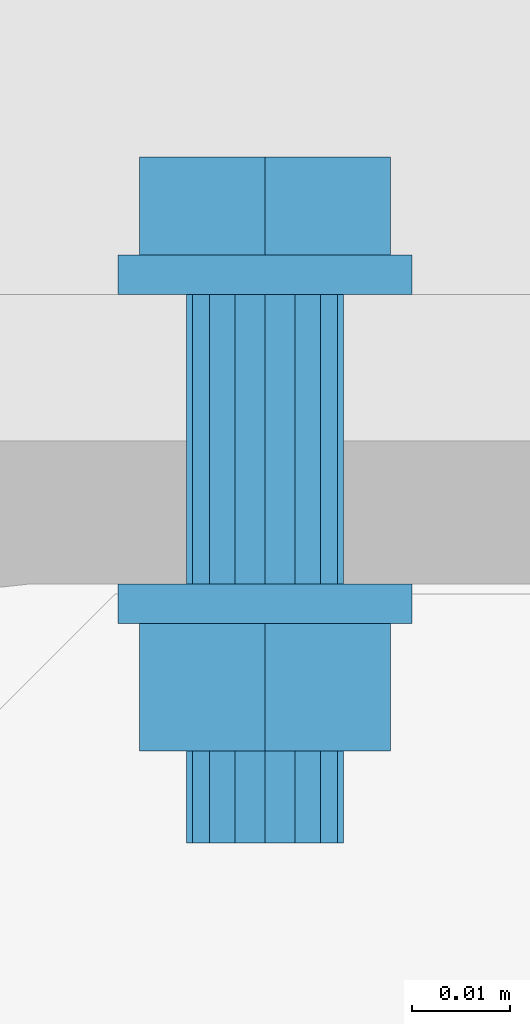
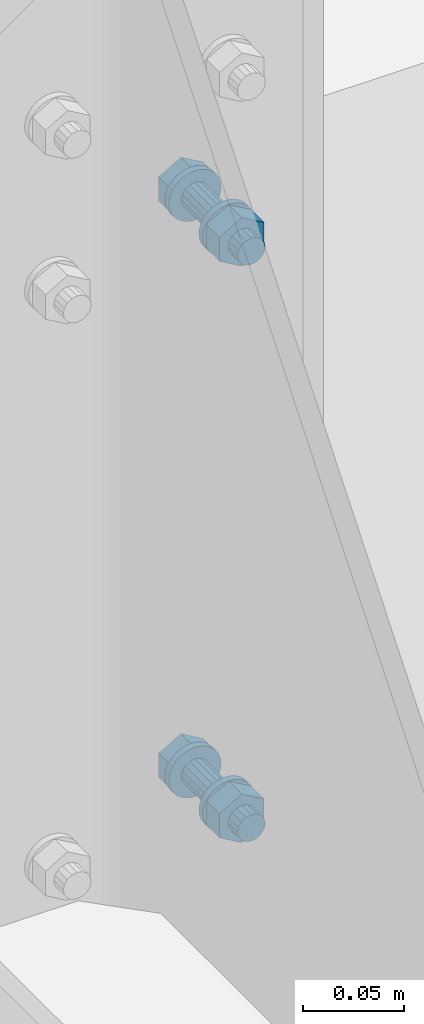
# Not in any storey, part 29 of 50: 2 mechanical fasteners.
"""IFC4 model written with IfcOpenShell, lengths in metres."""

from ifc_helpers import new_model, entity, si_unit, converted_unit, derived_unit, direction, origin, origin_with_axes, place, context, project, spatial, faceted_brep, element, save


model = new_model("IFC4")

# Units and contexts
model_context = context("Model", 3, precision=1e-05, world=origin(), true_north=direction((6.123233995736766e-17, 1.0)))
ifc_project = project(units=[si_unit("LENGTHUNIT", "METRE"), si_unit("AREAUNIT", "SQUARE_METRE"), converted_unit("PLANEANGLEUNIT", "DEGREE", entity("IfcPlaneAngleMeasure", 0.017453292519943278), si_unit("PLANEANGLEUNIT", "RADIAN"), dimensions=[0, 0, 0, 0, 0, 0, 0]), si_unit("VOLUMEUNIT", "CUBIC_METRE"), derived_unit("THERMALTRANSMITTANCEUNIT", [(si_unit("MASSUNIT", "GRAM", prefix="KILO"), 1), (si_unit("THERMODYNAMICTEMPERATUREUNIT", "KELVIN"), -1), (si_unit("TIMEUNIT", "SECOND"), -3)])], contexts=[model_context])

# Site
site_placement = place(None, origin())
site = spatial("IfcSite", under=ifc_project, at=site_placement, Name="Default", CompositionType="ELEMENT")

# Mechanical fasteners
mechanical_fastener_1_placement = place(site_placement, origin_with_axes())
element("IfcMechanicalFastener", 1, at=mechanical_fastener_1_placement, inside=site, ObjectType="Bolt#7", NominalDiameter=0.016, NominalLength=0.06, context=model_context, shape_type="Brep", body=[
    faceted_brep([(18.255144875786, 2.17376753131, 5.795), (18.255144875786, 2.1697675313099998, 5.795), (18.254856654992, 2.1697675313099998, 5.79207364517), (18.254856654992, 2.17376753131, 5.79207364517), (18.254003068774, 2.1697675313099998, 5.789259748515), (18.254003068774, 2.17376753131, 5.789259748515), (18.252616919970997, 2.1697675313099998, 5.7866664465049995), (18.252616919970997, 2.17376753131, 5.7866664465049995), (18.250751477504, 2.1697675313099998, 5.784393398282), (18.250751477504, 2.17376753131, 5.784393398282), (18.248478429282, 2.1697675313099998, 5.782527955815), (18.248478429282, 2.17376753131, 5.782527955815), (18.245885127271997, 2.1697675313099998, 5.781141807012), (18.245885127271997, 2.17376753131, 5.781141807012), (18.243071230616, 2.1697675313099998, 5.7802882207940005), (18.243071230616, 2.17376753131, 5.7802882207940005), (18.240144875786, 2.1697675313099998, 5.78), (18.240144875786, 2.17376753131, 5.78), (18.237218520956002, 2.1697675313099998, 5.7802882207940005), (18.237218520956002, 2.17376753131, 5.7802882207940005), (18.234404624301, 2.1697675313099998, 5.781141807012), (18.234404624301, 2.17376753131, 5.781141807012), (18.231811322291, 2.1697675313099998, 5.782527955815), (18.231811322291, 2.17376753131, 5.782527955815), (18.229538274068, 2.1697675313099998, 5.784393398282), (18.229538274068, 2.17376753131, 5.784393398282), (18.227672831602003, 2.1697675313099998, 5.7866664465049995), (18.227672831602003, 2.17376753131, 5.7866664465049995), (18.226286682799, 2.1697675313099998, 5.789259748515), (18.226286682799, 2.17376753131, 5.789259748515), (18.22543309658, 2.1697675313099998, 5.79207364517), (18.22543309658, 2.17376753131, 5.79207364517), (18.225144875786, 2.1697675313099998, 5.795), (18.225144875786, 2.17376753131, 5.795), (18.22543309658, 2.1697675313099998, 5.7979263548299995), (18.22543309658, 2.17376753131, 5.7979263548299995), (18.226286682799, 2.1697675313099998, 5.800740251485), (18.226286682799, 2.17376753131, 5.800740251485), (18.227672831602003, 2.1697675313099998, 5.803333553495), (18.227672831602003, 2.17376753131, 5.803333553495), (18.229538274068, 2.1697675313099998, 5.805606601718), (18.229538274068, 2.17376753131, 5.805606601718), (18.231811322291, 2.1697675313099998, 5.807472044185), (18.231811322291, 2.17376753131, 5.807472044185), (18.234404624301, 2.1697675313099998, 5.8088581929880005), (18.234404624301, 2.17376753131, 5.8088581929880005), (18.237218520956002, 2.1697675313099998, 5.809711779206), (18.237218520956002, 2.17376753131, 5.809711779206), (18.240144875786, 2.1697675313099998, 5.81), (18.240144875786, 2.17376753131, 5.81), (18.243071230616, 2.1697675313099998, 5.809711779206), (18.243071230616, 2.17376753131, 5.809711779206), (18.245885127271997, 2.1697675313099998, 5.8088581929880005), (18.245885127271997, 2.17376753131, 5.8088581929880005), (18.248478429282, 2.1697675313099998, 5.807472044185), (18.248478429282, 2.17376753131, 5.807472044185), (18.250751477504, 2.1697675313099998, 5.805606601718), (18.250751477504, 2.17376753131, 5.805606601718), (18.252616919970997, 2.1697675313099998, 5.803333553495), (18.252616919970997, 2.17376753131, 5.803333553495), (18.254003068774, 2.1697675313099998, 5.800740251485), (18.254003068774, 2.17376753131, 5.800740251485), (18.254856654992, 2.1697675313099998, 5.7979263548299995), (18.254856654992, 2.17376753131, 5.7979263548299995)], [[[0, 1, 2, 3]], [[3, 2, 4, 5]], [[5, 4, 6, 7]], [[7, 6, 8, 9]], [[9, 8, 10, 11]], [[11, 10, 12, 13]], [[13, 12, 14, 15]], [[15, 14, 16, 17]], [[17, 16, 18, 19]], [[19, 18, 20, 21]], [[21, 20, 22, 23]], [[23, 22, 24, 25]], [[25, 24, 26, 27]], [[27, 26, 28, 29]], [[29, 28, 30, 31]], [[31, 30, 32, 33]], [[33, 32, 34, 35]], [[35, 34, 36, 37]], [[37, 36, 38, 39]], [[39, 38, 40, 41]], [[41, 40, 42, 43]], [[43, 42, 44, 45]], [[45, 44, 46, 47]], [[47, 46, 48, 49]], [[49, 48, 50, 51]], [[51, 50, 52, 53]], [[53, 52, 54, 55]], [[55, 54, 56, 57]], [[57, 56, 58, 59]], [[59, 58, 60, 61]], [[61, 60, 62, 63]], [[63, 62, 1, 0]], [[0, 3, 5, 7, 9, 11, 13, 15, 17, 19, 21, 23, 25, 27, 29, 31, 33, 35, 37, 39, 41, 43, 45, 47, 49, 51, 53, 55, 57, 59, 61, 63]], [[1, 62, 60, 58, 56, 54, 52, 50, 48, 46, 44, 42, 40, 38, 36, 34, 32, 30, 28, 26, 24, 22, 20, 18, 16, 14, 12, 10, 8, 6, 4, 2]]]),
    faceted_brep([(18.227345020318, 2.17376753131, 5.78761), (18.227345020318, 2.18376753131, 5.78761), (18.240144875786, 2.18376753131, 5.78022), (18.240144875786, 2.17376753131, 5.78022), (18.252944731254, 2.18376753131, 5.78761), (18.252944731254, 2.17376753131, 5.78761), (18.252944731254, 2.18376753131, 5.80239), (18.252944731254, 2.17376753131, 5.80239), (18.240144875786, 2.18376753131, 5.80978), (18.240144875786, 2.17376753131, 5.80978), (18.227345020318, 2.18376753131, 5.80239), (18.227345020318, 2.17376753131, 5.80239)], [[[0, 1, 2, 3]], [[3, 2, 4, 5]], [[5, 4, 6, 7]], [[7, 6, 8, 9]], [[9, 8, 10, 11]], [[11, 10, 1, 0]], [[4, 2, 1, 10, 8, 6]], [[0, 3, 5, 7, 9, 11]]]),
    faceted_brep([(18.248144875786, 2.1697675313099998, 5.795), (18.248144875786, 2.14016753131, 5.795), (18.247535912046, 2.14016753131, 5.791938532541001), (18.247535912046, 2.1697675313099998, 5.791938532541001), (18.245801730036, 2.14016753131, 5.789343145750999), (18.245801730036, 2.1697675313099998, 5.789343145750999), (18.243206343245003, 2.14016753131, 5.78760896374), (18.243206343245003, 2.1697675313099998, 5.78760896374), (18.240144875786, 2.14016753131, 5.787), (18.240144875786, 2.1697675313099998, 5.787), (18.237083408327, 2.14016753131, 5.78760896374), (18.237083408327, 2.1697675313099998, 5.78760896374), (18.234488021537, 2.14016753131, 5.789343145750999), (18.234488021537, 2.1697675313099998, 5.789343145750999), (18.232753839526, 2.14016753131, 5.791938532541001), (18.232753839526, 2.1697675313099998, 5.791938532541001), (18.232144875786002, 2.14016753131, 5.795), (18.232144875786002, 2.1697675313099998, 5.795), (18.232753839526, 2.14016753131, 5.798061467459), (18.232753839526, 2.1697675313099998, 5.798061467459), (18.234488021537, 2.14016753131, 5.8006568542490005), (18.234488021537, 2.1697675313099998, 5.8006568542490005), (18.237083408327, 2.14016753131, 5.8023910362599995), (18.237083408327, 2.1697675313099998, 5.8023910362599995), (18.240144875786, 2.14016753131, 5.803), (18.240144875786, 2.1697675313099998, 5.803), (18.243206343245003, 2.14016753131, 5.8023910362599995), (18.243206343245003, 2.1697675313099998, 5.8023910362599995), (18.245801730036, 2.14016753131, 5.8006568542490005), (18.245801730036, 2.1697675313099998, 5.8006568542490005), (18.247535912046, 2.14016753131, 5.798061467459), (18.247535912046, 2.1697675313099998, 5.798061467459)], [[[0, 1, 2, 3]], [[3, 2, 4, 5]], [[5, 4, 6, 7]], [[7, 6, 8, 9]], [[9, 8, 10, 11]], [[11, 10, 12, 13]], [[13, 12, 14, 15]], [[15, 14, 16, 17]], [[17, 16, 18, 19]], [[19, 18, 20, 21]], [[21, 20, 22, 23]], [[23, 22, 24, 25]], [[25, 24, 26, 27]], [[27, 26, 28, 29]], [[29, 28, 30, 31]], [[31, 30, 1, 0]], [[0, 3, 5, 7, 9, 11, 13, 15, 17, 19, 21, 23, 25, 27, 29, 31]], [[1, 30, 28, 26, 24, 22, 20, 18, 16, 14, 12, 10, 8, 6, 4, 2]]]),
    faceted_brep([(18.255144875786, 2.14016753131, 5.795), (18.255144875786, 2.13616753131, 5.795), (18.254856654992, 2.13616753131, 5.79207364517), (18.254856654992, 2.14016753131, 5.79207364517), (18.254003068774, 2.13616753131, 5.789259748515), (18.254003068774, 2.14016753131, 5.789259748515), (18.252616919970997, 2.13616753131, 5.7866664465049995), (18.252616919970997, 2.14016753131, 5.7866664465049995), (18.250751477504, 2.13616753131, 5.784393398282), (18.250751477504, 2.14016753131, 5.784393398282), (18.248478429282, 2.13616753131, 5.782527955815), (18.248478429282, 2.14016753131, 5.782527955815), (18.245885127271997, 2.13616753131, 5.781141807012), (18.245885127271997, 2.14016753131, 5.781141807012), (18.243071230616, 2.13616753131, 5.7802882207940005), (18.243071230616, 2.14016753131, 5.7802882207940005), (18.240144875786, 2.13616753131, 5.78), (18.240144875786, 2.14016753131, 5.78), (18.237218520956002, 2.13616753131, 5.7802882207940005), (18.237218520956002, 2.14016753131, 5.7802882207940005), (18.234404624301, 2.13616753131, 5.781141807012), (18.234404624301, 2.14016753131, 5.781141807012), (18.231811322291, 2.13616753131, 5.782527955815), (18.231811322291, 2.14016753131, 5.782527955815), (18.229538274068, 2.13616753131, 5.784393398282), (18.229538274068, 2.14016753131, 5.784393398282), (18.227672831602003, 2.13616753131, 5.7866664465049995), (18.227672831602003, 2.14016753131, 5.7866664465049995), (18.226286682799, 2.13616753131, 5.789259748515), (18.226286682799, 2.14016753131, 5.789259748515), (18.22543309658, 2.13616753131, 5.79207364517), (18.22543309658, 2.14016753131, 5.79207364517), (18.225144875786, 2.13616753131, 5.795), (18.225144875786, 2.14016753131, 5.795), (18.22543309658, 2.13616753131, 5.7979263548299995), (18.22543309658, 2.14016753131, 5.7979263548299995), (18.226286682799, 2.13616753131, 5.800740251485), (18.226286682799, 2.14016753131, 5.800740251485), (18.227672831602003, 2.13616753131, 5.803333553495), (18.227672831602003, 2.14016753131, 5.803333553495), (18.229538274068, 2.13616753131, 5.805606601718), (18.229538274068, 2.14016753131, 5.805606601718), (18.231811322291, 2.13616753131, 5.807472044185), (18.231811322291, 2.14016753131, 5.807472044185), (18.234404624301, 2.13616753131, 5.8088581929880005), (18.234404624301, 2.14016753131, 5.8088581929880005), (18.237218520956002, 2.13616753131, 5.809711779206), (18.237218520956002, 2.14016753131, 5.809711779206), (18.240144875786, 2.13616753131, 5.81), (18.240144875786, 2.14016753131, 5.81), (18.243071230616, 2.13616753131, 5.809711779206), (18.243071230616, 2.14016753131, 5.809711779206), (18.245885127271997, 2.13616753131, 5.8088581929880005), (18.245885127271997, 2.14016753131, 5.8088581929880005), (18.248478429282, 2.13616753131, 5.807472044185), (18.248478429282, 2.14016753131, 5.807472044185), (18.250751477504, 2.13616753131, 5.805606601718), (18.250751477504, 2.14016753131, 5.805606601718), (18.252616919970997, 2.13616753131, 5.803333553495), (18.252616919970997, 2.14016753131, 5.803333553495), (18.254003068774, 2.13616753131, 5.800740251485), (18.254003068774, 2.14016753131, 5.800740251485), (18.254856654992, 2.13616753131, 5.7979263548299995), (18.254856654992, 2.14016753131, 5.7979263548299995)], [[[0, 1, 2, 3]], [[3, 2, 4, 5]], [[5, 4, 6, 7]], [[7, 6, 8, 9]], [[9, 8, 10, 11]], [[11, 10, 12, 13]], [[13, 12, 14, 15]], [[15, 14, 16, 17]], [[17, 16, 18, 19]], [[19, 18, 20, 21]], [[21, 20, 22, 23]], [[23, 22, 24, 25]], [[25, 24, 26, 27]], [[27, 26, 28, 29]], [[29, 28, 30, 31]], [[31, 30, 32, 33]], [[33, 32, 34, 35]], [[35, 34, 36, 37]], [[37, 36, 38, 39]], [[39, 38, 40, 41]], [[41, 40, 42, 43]], [[43, 42, 44, 45]], [[45, 44, 46, 47]], [[47, 46, 48, 49]], [[49, 48, 50, 51]], [[51, 50, 52, 53]], [[53, 52, 54, 55]], [[55, 54, 56, 57]], [[57, 56, 58, 59]], [[59, 58, 60, 61]], [[61, 60, 62, 63]], [[63, 62, 1, 0]], [[0, 3, 5, 7, 9, 11, 13, 15, 17, 19, 21, 23, 25, 27, 29, 31, 33, 35, 37, 39, 41, 43, 45, 47, 49, 51, 53, 55, 57, 59, 61, 63]], [[1, 62, 60, 58, 56, 54, 52, 50, 48, 46, 44, 42, 40, 38, 36, 34, 32, 30, 28, 26, 24, 22, 20, 18, 16, 14, 12, 10, 8, 6, 4, 2]]]),
    faceted_brep([(18.227345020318, 2.12316753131, 5.78761), (18.227345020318, 2.13616753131, 5.78761), (18.240144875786, 2.13616753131, 5.78022), (18.240144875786, 2.12316753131, 5.78022), (18.252944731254, 2.13616753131, 5.78761), (18.252944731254, 2.12316753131, 5.78761), (18.252944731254, 2.13616753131, 5.80239), (18.252944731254, 2.12316753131, 5.80239), (18.240144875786, 2.13616753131, 5.80978), (18.240144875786, 2.12316753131, 5.80978), (18.227345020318, 2.13616753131, 5.80239), (18.227345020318, 2.12316753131, 5.80239)], [[[0, 1, 2, 3]], [[3, 2, 4, 5]], [[5, 4, 6, 7]], [[7, 6, 8, 9]], [[9, 8, 10, 11]], [[11, 10, 1, 0]], [[4, 2, 1, 10, 8, 6]], [[0, 3, 5, 7, 9, 11]]]),
    faceted_brep([(18.248144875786, 2.12316753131, 5.795), (18.248144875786, 2.1137675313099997, 5.795), (18.247535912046, 2.1137675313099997, 5.791938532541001), (18.247535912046, 2.12316753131, 5.791938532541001), (18.245801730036, 2.1137675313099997, 5.789343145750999), (18.245801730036, 2.12316753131, 5.789343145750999), (18.243206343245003, 2.1137675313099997, 5.78760896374), (18.243206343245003, 2.12316753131, 5.78760896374), (18.240144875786, 2.1137675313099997, 5.787), (18.240144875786, 2.12316753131, 5.787), (18.237083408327, 2.1137675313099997, 5.78760896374), (18.237083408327, 2.12316753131, 5.78760896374), (18.234488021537, 2.1137675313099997, 5.789343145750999), (18.234488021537, 2.12316753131, 5.789343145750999), (18.232753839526, 2.1137675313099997, 5.791938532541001), (18.232753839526, 2.12316753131, 5.791938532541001), (18.232144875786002, 2.1137675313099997, 5.795), (18.232144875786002, 2.12316753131, 5.795), (18.232753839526, 2.1137675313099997, 5.798061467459), (18.232753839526, 2.12316753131, 5.798061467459), (18.234488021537, 2.1137675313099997, 5.8006568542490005), (18.234488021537, 2.12316753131, 5.8006568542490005), (18.237083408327, 2.1137675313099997, 5.8023910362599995), (18.237083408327, 2.12316753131, 5.8023910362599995), (18.240144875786, 2.1137675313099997, 5.803), (18.240144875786, 2.12316753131, 5.803), (18.243206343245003, 2.1137675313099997, 5.8023910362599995), (18.243206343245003, 2.12316753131, 5.8023910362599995), (18.245801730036, 2.1137675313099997, 5.8006568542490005), (18.245801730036, 2.12316753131, 5.8006568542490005), (18.247535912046, 2.1137675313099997, 5.798061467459), (18.247535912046, 2.12316753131, 5.798061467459)], [[[0, 1, 2, 3]], [[3, 2, 4, 5]], [[5, 4, 6, 7]], [[7, 6, 8, 9]], [[9, 8, 10, 11]], [[11, 10, 12, 13]], [[13, 12, 14, 15]], [[15, 14, 16, 17]], [[17, 16, 18, 19]], [[19, 18, 20, 21]], [[21, 20, 22, 23]], [[23, 22, 24, 25]], [[25, 24, 26, 27]], [[27, 26, 28, 29]], [[29, 28, 30, 31]], [[31, 30, 1, 0]], [[0, 3, 5, 7, 9, 11, 13, 15, 17, 19, 21, 23, 25, 27, 29, 31]], [[1, 30, 28, 26, 24, 22, 20, 18, 16, 14, 12, 10, 8, 6, 4, 2]]]),
])
mechanical_fastener_2_placement = place(site_placement, origin_with_axes())
element("IfcMechanicalFastener", 2, at=mechanical_fastener_2_placement, inside=site, ObjectType="Bolt#8", NominalDiameter=0.016, NominalLength=0.06, context=model_context, shape_type="Brep", body=[
    faceted_brep([(18.255144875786, 2.17376753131, 5.445), (18.255144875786, 2.1697675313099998, 5.445), (18.254856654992, 2.1697675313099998, 5.442073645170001), (18.254856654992, 2.17376753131, 5.442073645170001), (18.254003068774, 2.1697675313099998, 5.439259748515), (18.254003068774, 2.17376753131, 5.439259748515), (18.252616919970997, 2.1697675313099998, 5.436666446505), (18.252616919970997, 2.17376753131, 5.436666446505), (18.250751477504, 2.1697675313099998, 5.434393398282), (18.250751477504, 2.17376753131, 5.434393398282), (18.248478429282, 2.1697675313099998, 5.432527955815), (18.248478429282, 2.17376753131, 5.432527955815), (18.245885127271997, 2.1697675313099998, 5.431141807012), (18.245885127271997, 2.17376753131, 5.431141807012), (18.243071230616, 2.1697675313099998, 5.430288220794), (18.243071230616, 2.17376753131, 5.430288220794), (18.240144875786, 2.1697675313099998, 5.43), (18.240144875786, 2.17376753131, 5.43), (18.237218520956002, 2.1697675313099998, 5.430288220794), (18.237218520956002, 2.17376753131, 5.430288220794), (18.234404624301, 2.1697675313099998, 5.431141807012), (18.234404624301, 2.17376753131, 5.431141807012), (18.231811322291, 2.1697675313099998, 5.432527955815), (18.231811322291, 2.17376753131, 5.432527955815), (18.229538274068, 2.1697675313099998, 5.434393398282), (18.229538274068, 2.17376753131, 5.434393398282), (18.227672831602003, 2.1697675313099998, 5.436666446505), (18.227672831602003, 2.17376753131, 5.436666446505), (18.226286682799, 2.1697675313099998, 5.439259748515), (18.226286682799, 2.17376753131, 5.439259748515), (18.22543309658, 2.1697675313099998, 5.442073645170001), (18.22543309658, 2.17376753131, 5.442073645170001), (18.225144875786, 2.1697675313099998, 5.445), (18.225144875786, 2.17376753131, 5.445), (18.22543309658, 2.1697675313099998, 5.44792635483), (18.22543309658, 2.17376753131, 5.44792635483), (18.226286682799, 2.1697675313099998, 5.450740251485), (18.226286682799, 2.17376753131, 5.450740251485), (18.227672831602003, 2.1697675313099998, 5.453333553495), (18.227672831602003, 2.17376753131, 5.453333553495), (18.229538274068, 2.1697675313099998, 5.455606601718), (18.229538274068, 2.17376753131, 5.455606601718), (18.231811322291, 2.1697675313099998, 5.457472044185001), (18.231811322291, 2.17376753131, 5.457472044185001), (18.234404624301, 2.1697675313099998, 5.458858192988), (18.234404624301, 2.17376753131, 5.458858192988), (18.237218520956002, 2.1697675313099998, 5.459711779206), (18.237218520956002, 2.17376753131, 5.459711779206), (18.240144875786, 2.1697675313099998, 5.46), (18.240144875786, 2.17376753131, 5.46), (18.243071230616, 2.1697675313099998, 5.459711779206), (18.243071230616, 2.17376753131, 5.459711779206), (18.245885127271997, 2.1697675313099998, 5.458858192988), (18.245885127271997, 2.17376753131, 5.458858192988), (18.248478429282, 2.1697675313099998, 5.457472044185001), (18.248478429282, 2.17376753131, 5.457472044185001), (18.250751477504, 2.1697675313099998, 5.455606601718), (18.250751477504, 2.17376753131, 5.455606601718), (18.252616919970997, 2.1697675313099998, 5.453333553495), (18.252616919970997, 2.17376753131, 5.453333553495), (18.254003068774, 2.1697675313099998, 5.450740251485), (18.254003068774, 2.17376753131, 5.450740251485), (18.254856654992, 2.1697675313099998, 5.44792635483), (18.254856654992, 2.17376753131, 5.44792635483)], [[[0, 1, 2, 3]], [[3, 2, 4, 5]], [[5, 4, 6, 7]], [[7, 6, 8, 9]], [[9, 8, 10, 11]], [[11, 10, 12, 13]], [[13, 12, 14, 15]], [[15, 14, 16, 17]], [[17, 16, 18, 19]], [[19, 18, 20, 21]], [[21, 20, 22, 23]], [[23, 22, 24, 25]], [[25, 24, 26, 27]], [[27, 26, 28, 29]], [[29, 28, 30, 31]], [[31, 30, 32, 33]], [[33, 32, 34, 35]], [[35, 34, 36, 37]], [[37, 36, 38, 39]], [[39, 38, 40, 41]], [[41, 40, 42, 43]], [[43, 42, 44, 45]], [[45, 44, 46, 47]], [[47, 46, 48, 49]], [[49, 48, 50, 51]], [[51, 50, 52, 53]], [[53, 52, 54, 55]], [[55, 54, 56, 57]], [[57, 56, 58, 59]], [[59, 58, 60, 61]], [[61, 60, 62, 63]], [[63, 62, 1, 0]], [[0, 3, 5, 7, 9, 11, 13, 15, 17, 19, 21, 23, 25, 27, 29, 31, 33, 35, 37, 39, 41, 43, 45, 47, 49, 51, 53, 55, 57, 59, 61, 63]], [[1, 62, 60, 58, 56, 54, 52, 50, 48, 46, 44, 42, 40, 38, 36, 34, 32, 30, 28, 26, 24, 22, 20, 18, 16, 14, 12, 10, 8, 6, 4, 2]]]),
    faceted_brep([(18.227345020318, 2.17376753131, 5.437609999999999), (18.227345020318, 2.18376753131, 5.437609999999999), (18.240144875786, 2.18376753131, 5.43022), (18.240144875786, 2.17376753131, 5.43022), (18.252944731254, 2.18376753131, 5.437609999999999), (18.252944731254, 2.17376753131, 5.437609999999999), (18.252944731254, 2.18376753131, 5.45239), (18.252944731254, 2.17376753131, 5.45239), (18.240144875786, 2.18376753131, 5.459779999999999), (18.240144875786, 2.17376753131, 5.459779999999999), (18.227345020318, 2.18376753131, 5.45239), (18.227345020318, 2.17376753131, 5.45239)], [[[0, 1, 2, 3]], [[3, 2, 4, 5]], [[5, 4, 6, 7]], [[7, 6, 8, 9]], [[9, 8, 10, 11]], [[11, 10, 1, 0]], [[4, 2, 1, 10, 8, 6]], [[0, 3, 5, 7, 9, 11]]]),
    faceted_brep([(18.248144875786, 2.1697675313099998, 5.445), (18.248144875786, 2.14016753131, 5.445), (18.247535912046, 2.14016753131, 5.441938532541), (18.247535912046, 2.1697675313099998, 5.441938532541), (18.245801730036, 2.14016753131, 5.439343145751), (18.245801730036, 2.1697675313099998, 5.439343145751), (18.243206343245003, 2.14016753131, 5.43760896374), (18.243206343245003, 2.1697675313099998, 5.43760896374), (18.240144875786, 2.14016753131, 5.437), (18.240144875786, 2.1697675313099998, 5.437), (18.237083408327, 2.14016753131, 5.43760896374), (18.237083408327, 2.1697675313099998, 5.43760896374), (18.234488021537, 2.14016753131, 5.439343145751), (18.234488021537, 2.1697675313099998, 5.439343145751), (18.232753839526, 2.14016753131, 5.441938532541), (18.232753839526, 2.1697675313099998, 5.441938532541), (18.232144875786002, 2.14016753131, 5.445), (18.232144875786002, 2.1697675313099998, 5.445), (18.232753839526, 2.14016753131, 5.4480614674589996), (18.232753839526, 2.1697675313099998, 5.4480614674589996), (18.234488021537, 2.14016753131, 5.450656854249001), (18.234488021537, 2.1697675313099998, 5.450656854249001), (18.237083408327, 2.14016753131, 5.45239103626), (18.237083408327, 2.1697675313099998, 5.45239103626), (18.240144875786, 2.14016753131, 5.453), (18.240144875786, 2.1697675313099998, 5.453), (18.243206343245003, 2.14016753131, 5.45239103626), (18.243206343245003, 2.1697675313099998, 5.45239103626), (18.245801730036, 2.14016753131, 5.450656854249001), (18.245801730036, 2.1697675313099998, 5.450656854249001), (18.247535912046, 2.14016753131, 5.4480614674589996), (18.247535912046, 2.1697675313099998, 5.4480614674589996)], [[[0, 1, 2, 3]], [[3, 2, 4, 5]], [[5, 4, 6, 7]], [[7, 6, 8, 9]], [[9, 8, 10, 11]], [[11, 10, 12, 13]], [[13, 12, 14, 15]], [[15, 14, 16, 17]], [[17, 16, 18, 19]], [[19, 18, 20, 21]], [[21, 20, 22, 23]], [[23, 22, 24, 25]], [[25, 24, 26, 27]], [[27, 26, 28, 29]], [[29, 28, 30, 31]], [[31, 30, 1, 0]], [[0, 3, 5, 7, 9, 11, 13, 15, 17, 19, 21, 23, 25, 27, 29, 31]], [[1, 30, 28, 26, 24, 22, 20, 18, 16, 14, 12, 10, 8, 6, 4, 2]]]),
    faceted_brep([(18.255144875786, 2.14016753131, 5.445), (18.255144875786, 2.13616753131, 5.445), (18.254856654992, 2.13616753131, 5.442073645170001), (18.254856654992, 2.14016753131, 5.442073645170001), (18.254003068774, 2.13616753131, 5.439259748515), (18.254003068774, 2.14016753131, 5.439259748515), (18.252616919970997, 2.13616753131, 5.436666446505), (18.252616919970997, 2.14016753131, 5.436666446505), (18.250751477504, 2.13616753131, 5.434393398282), (18.250751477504, 2.14016753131, 5.434393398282), (18.248478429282, 2.13616753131, 5.432527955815), (18.248478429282, 2.14016753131, 5.432527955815), (18.245885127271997, 2.13616753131, 5.431141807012), (18.245885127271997, 2.14016753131, 5.431141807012), (18.243071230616, 2.13616753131, 5.430288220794), (18.243071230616, 2.14016753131, 5.430288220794), (18.240144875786, 2.13616753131, 5.43), (18.240144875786, 2.14016753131, 5.43), (18.237218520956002, 2.13616753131, 5.430288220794), (18.237218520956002, 2.14016753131, 5.430288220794), (18.234404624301, 2.13616753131, 5.431141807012), (18.234404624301, 2.14016753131, 5.431141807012), (18.231811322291, 2.13616753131, 5.432527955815), (18.231811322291, 2.14016753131, 5.432527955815), (18.229538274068, 2.13616753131, 5.434393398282), (18.229538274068, 2.14016753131, 5.434393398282), (18.227672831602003, 2.13616753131, 5.436666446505), (18.227672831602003, 2.14016753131, 5.436666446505), (18.226286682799, 2.13616753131, 5.439259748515), (18.226286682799, 2.14016753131, 5.439259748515), (18.22543309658, 2.13616753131, 5.442073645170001), (18.22543309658, 2.14016753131, 5.442073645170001), (18.225144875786, 2.13616753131, 5.445), (18.225144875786, 2.14016753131, 5.445), (18.22543309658, 2.13616753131, 5.44792635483), (18.22543309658, 2.14016753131, 5.44792635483), (18.226286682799, 2.13616753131, 5.450740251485), (18.226286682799, 2.14016753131, 5.450740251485), (18.227672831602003, 2.13616753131, 5.453333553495), (18.227672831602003, 2.14016753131, 5.453333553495), (18.229538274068, 2.13616753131, 5.455606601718), (18.229538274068, 2.14016753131, 5.455606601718), (18.231811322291, 2.13616753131, 5.457472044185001), (18.231811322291, 2.14016753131, 5.457472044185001), (18.234404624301, 2.13616753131, 5.458858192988), (18.234404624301, 2.14016753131, 5.458858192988), (18.237218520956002, 2.13616753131, 5.459711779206), (18.237218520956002, 2.14016753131, 5.459711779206), (18.240144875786, 2.13616753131, 5.46), (18.240144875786, 2.14016753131, 5.46), (18.243071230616, 2.13616753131, 5.459711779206), (18.243071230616, 2.14016753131, 5.459711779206), (18.245885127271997, 2.13616753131, 5.458858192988), (18.245885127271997, 2.14016753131, 5.458858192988), (18.248478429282, 2.13616753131, 5.457472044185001), (18.248478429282, 2.14016753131, 5.457472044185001), (18.250751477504, 2.13616753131, 5.455606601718), (18.250751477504, 2.14016753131, 5.455606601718), (18.252616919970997, 2.13616753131, 5.453333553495), (18.252616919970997, 2.14016753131, 5.453333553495), (18.254003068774, 2.13616753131, 5.450740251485), (18.254003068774, 2.14016753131, 5.450740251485), (18.254856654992, 2.13616753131, 5.44792635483), (18.254856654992, 2.14016753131, 5.44792635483)], [[[0, 1, 2, 3]], [[3, 2, 4, 5]], [[5, 4, 6, 7]], [[7, 6, 8, 9]], [[9, 8, 10, 11]], [[11, 10, 12, 13]], [[13, 12, 14, 15]], [[15, 14, 16, 17]], [[17, 16, 18, 19]], [[19, 18, 20, 21]], [[21, 20, 22, 23]], [[23, 22, 24, 25]], [[25, 24, 26, 27]], [[27, 26, 28, 29]], [[29, 28, 30, 31]], [[31, 30, 32, 33]], [[33, 32, 34, 35]], [[35, 34, 36, 37]], [[37, 36, 38, 39]], [[39, 38, 40, 41]], [[41, 40, 42, 43]], [[43, 42, 44, 45]], [[45, 44, 46, 47]], [[47, 46, 48, 49]], [[49, 48, 50, 51]], [[51, 50, 52, 53]], [[53, 52, 54, 55]], [[55, 54, 56, 57]], [[57, 56, 58, 59]], [[59, 58, 60, 61]], [[61, 60, 62, 63]], [[63, 62, 1, 0]], [[0, 3, 5, 7, 9, 11, 13, 15, 17, 19, 21, 23, 25, 27, 29, 31, 33, 35, 37, 39, 41, 43, 45, 47, 49, 51, 53, 55, 57, 59, 61, 63]], [[1, 62, 60, 58, 56, 54, 52, 50, 48, 46, 44, 42, 40, 38, 36, 34, 32, 30, 28, 26, 24, 22, 20, 18, 16, 14, 12, 10, 8, 6, 4, 2]]]),
    faceted_brep([(18.227345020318, 2.12316753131, 5.437609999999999), (18.227345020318, 2.13616753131, 5.437609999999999), (18.240144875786, 2.13616753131, 5.43022), (18.240144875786, 2.12316753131, 5.43022), (18.252944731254, 2.13616753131, 5.437609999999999), (18.252944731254, 2.12316753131, 5.437609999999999), (18.252944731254, 2.13616753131, 5.45239), (18.252944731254, 2.12316753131, 5.45239), (18.240144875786, 2.13616753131, 5.459779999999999), (18.240144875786, 2.12316753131, 5.459779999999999), (18.227345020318, 2.13616753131, 5.45239), (18.227345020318, 2.12316753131, 5.45239)], [[[0, 1, 2, 3]], [[3, 2, 4, 5]], [[5, 4, 6, 7]], [[7, 6, 8, 9]], [[9, 8, 10, 11]], [[11, 10, 1, 0]], [[4, 2, 1, 10, 8, 6]], [[0, 3, 5, 7, 9, 11]]]),
    faceted_brep([(18.248144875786, 2.12316753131, 5.445), (18.248144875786, 2.1137675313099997, 5.445), (18.247535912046, 2.1137675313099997, 5.441938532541), (18.247535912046, 2.12316753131, 5.441938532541), (18.245801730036, 2.1137675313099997, 5.439343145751), (18.245801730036, 2.12316753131, 5.439343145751), (18.243206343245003, 2.1137675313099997, 5.43760896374), (18.243206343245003, 2.12316753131, 5.43760896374), (18.240144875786, 2.1137675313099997, 5.437), (18.240144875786, 2.12316753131, 5.437), (18.237083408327, 2.1137675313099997, 5.43760896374), (18.237083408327, 2.12316753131, 5.43760896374), (18.234488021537, 2.1137675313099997, 5.439343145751), (18.234488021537, 2.12316753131, 5.439343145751), (18.232753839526, 2.1137675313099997, 5.441938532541), (18.232753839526, 2.12316753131, 5.441938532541), (18.232144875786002, 2.1137675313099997, 5.445), (18.232144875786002, 2.12316753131, 5.445), (18.232753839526, 2.1137675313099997, 5.4480614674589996), (18.232753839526, 2.12316753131, 5.4480614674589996), (18.234488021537, 2.1137675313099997, 5.450656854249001), (18.234488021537, 2.12316753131, 5.450656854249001), (18.237083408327, 2.1137675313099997, 5.45239103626), (18.237083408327, 2.12316753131, 5.45239103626), (18.240144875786, 2.1137675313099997, 5.453), (18.240144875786, 2.12316753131, 5.453), (18.243206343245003, 2.1137675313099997, 5.45239103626), (18.243206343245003, 2.12316753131, 5.45239103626), (18.245801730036, 2.1137675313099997, 5.450656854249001), (18.245801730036, 2.12316753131, 5.450656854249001), (18.247535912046, 2.1137675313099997, 5.4480614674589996), (18.247535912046, 2.12316753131, 5.4480614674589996)], [[[0, 1, 2, 3]], [[3, 2, 4, 5]], [[5, 4, 6, 7]], [[7, 6, 8, 9]], [[9, 8, 10, 11]], [[11, 10, 12, 13]], [[13, 12, 14, 15]], [[15, 14, 16, 17]], [[17, 16, 18, 19]], [[19, 18, 20, 21]], [[21, 20, 22, 23]], [[23, 22, 24, 25]], [[25, 24, 26, 27]], [[27, 26, 28, 29]], [[29, 28, 30, 31]], [[31, 30, 1, 0]], [[0, 3, 5, 7, 9, 11, 13, 15, 17, 19, 21, 23, 25, 27, 29, 31]], [[1, 30, 28, 26, 24, 22, 20, 18, 16, 14, 12, 10, 8, 6, 4, 2]]]),
])

save(model, "model.ifc")
